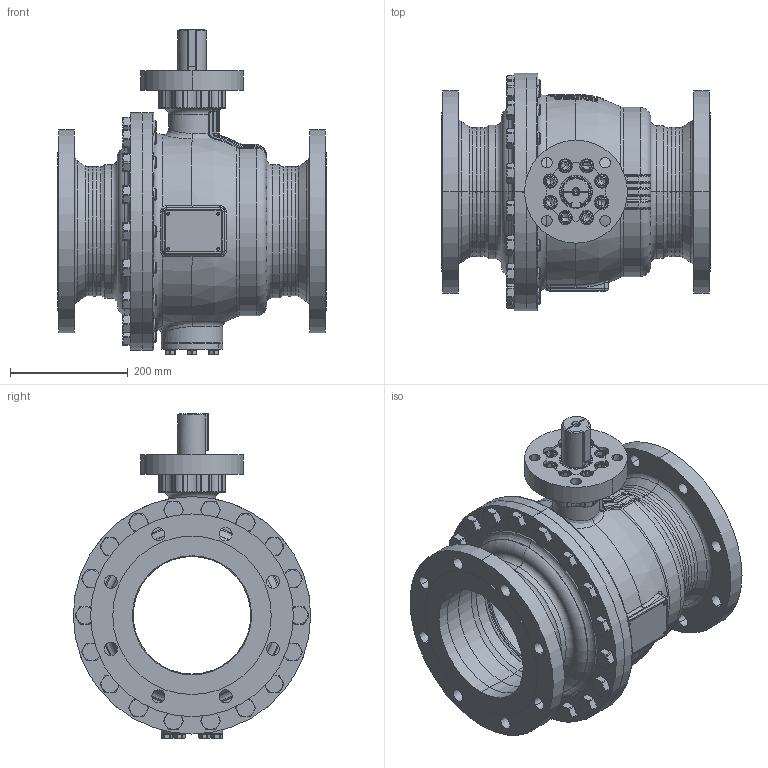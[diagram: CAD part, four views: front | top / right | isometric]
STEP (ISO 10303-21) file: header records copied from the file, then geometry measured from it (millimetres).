
FILE_DESCRIPTION((''),'2;1');
FILE_NAME('KHI-F_200_CL150-F14-P_SW0001','2026-02-05T12:57:37',('fischerkl'),('KLINGER'),'CREO PARAMETRIC BY PTC INC, 2023014','CREO PARAMETRIC BY PTC INC, 2023014','');
FILE_SCHEMA(('CONFIG_CONTROL_DESIGN'));
Products named in the file (1): KHI-F_200_CL150-F14-P_SW0001
Bounding box: 457 x 404 x 552.2 mm (x, y, z)
Volume: 13538810.8 mm3; surface area: 2271851.9 mm2
Topology: 1 solids, 4 shells, 2922 faces, 7316 edges, 4534 vertices
Faces by surface type: plane 1413, cylinder 708, cone 360, torus 303, bspline 108, sphere 30
Entity records: 120531 total; most frequent: CARTESIAN_POINT 51543, ORIENTED_EDGE 14580, DIRECTION 14304, EDGE_CURVE 7290, AXIS2_PLACEMENT_3D 5514, VERTEX_POINT 4534, VECTOR 3276, LINE 3276
